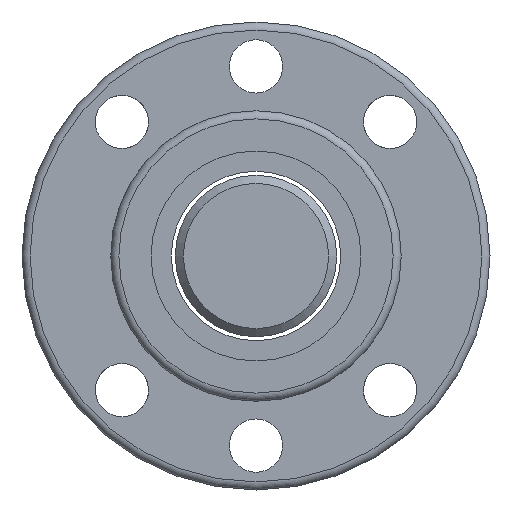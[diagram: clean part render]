
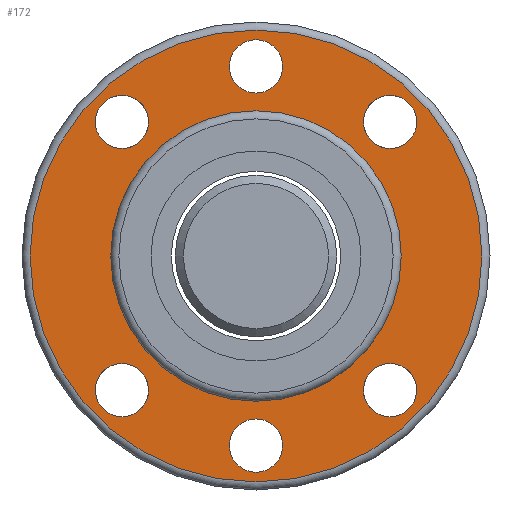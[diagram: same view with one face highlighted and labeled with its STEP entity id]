
A CAD part, left-side view. The second image highlights one B-rep face of the part: STEP entity #172.
In plain terms, the highlighted planar face has unit normal (-1, 0, 0).
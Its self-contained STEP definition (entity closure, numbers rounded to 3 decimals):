
#125=PLANE('',#692);
#142=FACE_OUTER_BOUND('',#345,.T.);
#172=ADVANCED_FACE('',(#247,#248,#249,#250,#251,#252,#142,#253),#125,.F.);
#247=FACE_BOUND('',#339,.T.);
#248=FACE_BOUND('',#340,.T.);
#249=FACE_BOUND('',#341,.T.);
#250=FACE_BOUND('',#342,.T.);
#251=FACE_BOUND('',#343,.T.);
#252=FACE_BOUND('',#344,.T.);
#253=FACE_BOUND('',#346,.T.);
#339=EDGE_LOOP('',(#437));
#340=EDGE_LOOP('',(#438));
#341=EDGE_LOOP('',(#439));
#342=EDGE_LOOP('',(#440));
#343=EDGE_LOOP('',(#441));
#344=EDGE_LOOP('',(#442));
#345=EDGE_LOOP('',(#443));
#346=EDGE_LOOP('',(#444));
#437=ORIENTED_EDGE('',*,*,#562,.T.);
#438=ORIENTED_EDGE('',*,*,#563,.T.);
#439=ORIENTED_EDGE('',*,*,#564,.T.);
#440=ORIENTED_EDGE('',*,*,#565,.T.);
#441=ORIENTED_EDGE('',*,*,#566,.T.);
#442=ORIENTED_EDGE('',*,*,#567,.T.);
#443=ORIENTED_EDGE('',*,*,#568,.F.);
#444=ORIENTED_EDGE('',*,*,#560,.T.);
#511=VERTEX_POINT('',#987);
#513=VERTEX_POINT('',#992);
#514=VERTEX_POINT('',#994);
#515=VERTEX_POINT('',#996);
#516=VERTEX_POINT('',#998);
#517=VERTEX_POINT('',#1000);
#518=VERTEX_POINT('',#1002);
#519=VERTEX_POINT('',#1004);
#560=EDGE_CURVE('',#511,#511,#609,.T.);
#562=EDGE_CURVE('',#513,#513,#611,.T.);
#563=EDGE_CURVE('',#514,#514,#612,.T.);
#564=EDGE_CURVE('',#515,#515,#613,.T.);
#565=EDGE_CURVE('',#516,#516,#614,.T.);
#566=EDGE_CURVE('',#517,#517,#615,.T.);
#567=EDGE_CURVE('',#518,#518,#616,.T.);
#568=EDGE_CURVE('',#519,#519,#617,.T.);
#609=CIRCLE('',#682,18.);
#611=CIRCLE('',#685,3.3);
#612=CIRCLE('',#686,3.3);
#613=CIRCLE('',#687,3.3);
#614=CIRCLE('',#688,3.3);
#615=CIRCLE('',#689,3.3);
#616=CIRCLE('',#690,3.3);
#617=CIRCLE('',#691,28.);
#682=AXIS2_PLACEMENT_3D('',#986,#822,#823);
#685=AXIS2_PLACEMENT_3D('',#991,#828,#829);
#686=AXIS2_PLACEMENT_3D('',#993,#830,#831);
#687=AXIS2_PLACEMENT_3D('',#995,#832,#833);
#688=AXIS2_PLACEMENT_3D('',#997,#834,#835);
#689=AXIS2_PLACEMENT_3D('',#999,#836,#837);
#690=AXIS2_PLACEMENT_3D('',#1001,#838,#839);
#691=AXIS2_PLACEMENT_3D('',#1003,#840,#841);
#692=AXIS2_PLACEMENT_3D('',#1005,#842,#843);
#822=DIRECTION('',(1.,0.,0.));
#823=DIRECTION('',(0.,0.,-1.));
#828=DIRECTION('',(1.,0.,0.));
#829=DIRECTION('',(0.,0.,-1.));
#830=DIRECTION('',(1.,0.,0.));
#831=DIRECTION('',(0.,0.,-1.));
#832=DIRECTION('',(1.,0.,0.));
#833=DIRECTION('',(0.,0.,-1.));
#834=DIRECTION('',(1.,0.,0.));
#835=DIRECTION('',(0.,0.,-1.));
#836=DIRECTION('',(1.,0.,0.));
#837=DIRECTION('',(0.,0.,-1.));
#838=DIRECTION('',(1.,0.,0.));
#839=DIRECTION('',(0.,0.,-1.));
#840=DIRECTION('',(1.,0.,0.));
#841=DIRECTION('',(0.,0.,-1.));
#842=DIRECTION('',(1.,0.,0.));
#843=DIRECTION('',(0.,0.,-1.));
#986=CARTESIAN_POINT('',(-25.,0.,0.));
#987=CARTESIAN_POINT('',(-25.,0.,-18.));
#991=CARTESIAN_POINT('',(-25.,16.617,16.617));
#992=CARTESIAN_POINT('',(-25.,16.617,13.317));
#993=CARTESIAN_POINT('',(-25.,16.617,-16.617));
#994=CARTESIAN_POINT('',(-25.,16.617,-19.917));
#995=CARTESIAN_POINT('',(-25.,0.,-23.5));
#996=CARTESIAN_POINT('',(-25.,0.,-26.8));
#997=CARTESIAN_POINT('',(-25.,-16.617,-16.617));
#998=CARTESIAN_POINT('',(-25.,-16.617,-19.917));
#999=CARTESIAN_POINT('',(-25.,-16.617,16.617));
#1000=CARTESIAN_POINT('',(-25.,-16.617,13.317));
#1001=CARTESIAN_POINT('',(-25.,0.,23.5));
#1002=CARTESIAN_POINT('',(-25.,0.,20.2));
#1003=CARTESIAN_POINT('',(-25.,0.,0.));
#1004=CARTESIAN_POINT('',(-25.,0.,-28.));
#1005=CARTESIAN_POINT('',(-25.,23.,0.));
